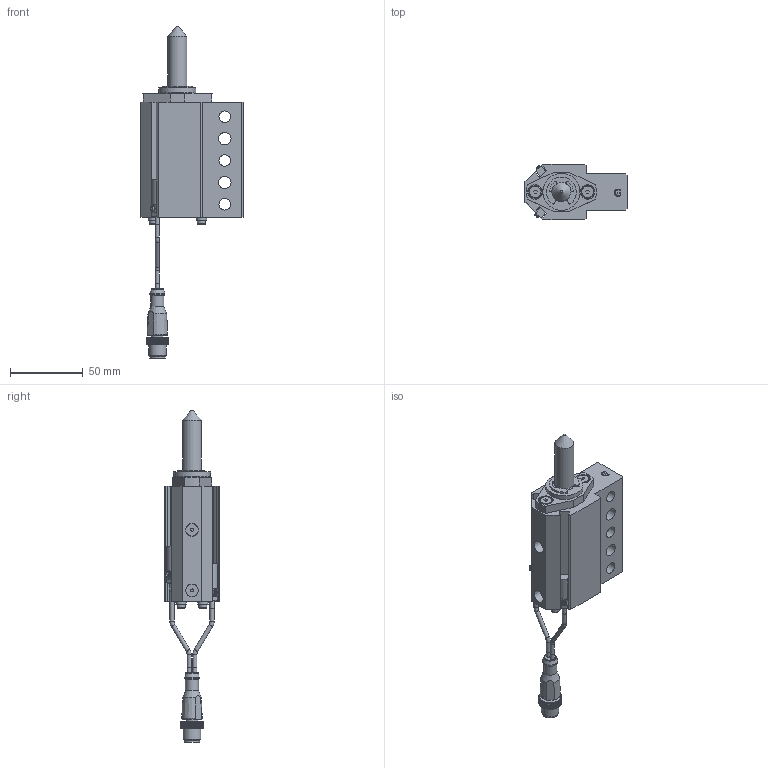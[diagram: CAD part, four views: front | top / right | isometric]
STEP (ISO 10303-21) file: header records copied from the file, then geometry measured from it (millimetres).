
FILE_DESCRIPTION(/* description */ ('NAAMS FLOATING MICRO PIN'),/* implementation_level */ '2;1');
FILE_NAME(/* name */ 'C:\Vault Workspace\CAD\Welker\Shot Pin\NMP\NMP130032AGNL3.stp',/* time_stamp */ '2021-01-27T10:56:11-05:00',/* author */ ('WELKER'),/* organization */ (''),/* preprocessor_version */ 'ST-DEVELOPER v18.1',/* originating_system */ 'Autodesk Inventor 2020',/* authorisation */ '');
FILE_SCHEMA (('AUTOMOTIVE_DESIGN { 1 0 10303 214 3 1 1 }'));
Length unit declared in the file: millimetre
Products named in the file (16): NMPL01; NMP L3 SWITCH; L3 Connector; L3 Sensor 1; L3 Sensor 2; L3 Sensor cable; L3 Sensor cable 2; M3X0.5-8 SHCS; NL3; NMPE06; NMPE03; NMPE05-DIA-LENGTH; 985432A218; NMPE01G-PORT; RMPE02; M5X5 SHOULDER
Assembly tree (22 placements, depth 3):
  NMPL01
    NMP L3 SWITCH
      L3 Connector
      L3 Sensor 1
      L3 Sensor 2
      L3 Sensor cable
      L3 Sensor cable 2
    M3X0.5-8 SHCS  x4
    NL3  x4
    NMPE06
    NMPE03
    NMPE05-DIA-LENGTH
    985432A218
    NMPE01G-PORT
    RMPE02
    M5X5 SHOULDER  x2
Bounding box: 70 x 38.1 x 227.71 mm (x, y, z)
Volume: 135420.7 mm3; surface area: 50402.8 mm2
Topology: 21 solids, 21 shells, 758 faces, 2085 edges, 1398 vertices
Faces by surface type: plane 545, cylinder 148, cone 35, bspline 16, torus 11, sphere 3
Full cylindrical faces by diameter (mm): 2 x2, 2.459 x4, 2.9 x10, 3 x5, 3.242 x2, 3.4 x4, 4 x2, 5 x6, 5.5 x4, 6.647 x2, 7 x4, 8 x5, 8.3 x2, 8.5 x2, 9 x3, 10 x3, 10.4 x1, 10.5 x1, 12 x1, 13 x3, 16 x2, 19.05 x3, 21 x1, 22.5 x1, 23.673 x1, 24 x1, 25.4 x1, 25.5 x1, 26.5 x1, 28.677 x1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
Entity records: 23720 total; most frequent: CARTESIAN_POINT 4677, ORIENTED_EDGE 3860, DIRECTION 3758, EDGE_CURVE 1930, LINE 1390, VECTOR 1390, VERTEX_POINT 1303, AXIS2_PLACEMENT_3D 1184
